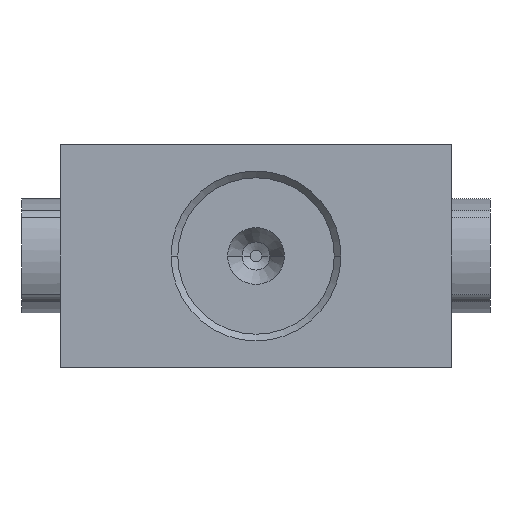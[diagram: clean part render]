
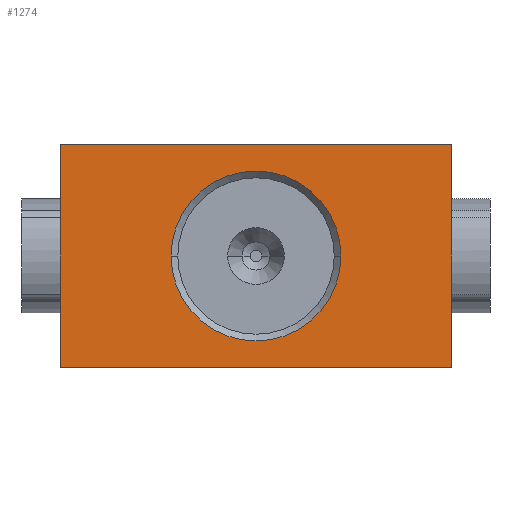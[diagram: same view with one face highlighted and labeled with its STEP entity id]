
A CAD part, front view. The second image highlights one B-rep face of the part: STEP entity #1274.
In plain terms, the highlighted planar face has unit normal (0, -1, 0).
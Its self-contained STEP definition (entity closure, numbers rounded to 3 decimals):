
#81 = EDGE_CURVE ( 'NONE', #2753, #1920, #539, .T. ) ;
#162 = CARTESIAN_POINT ( 'NONE',  ( -33.5, -43.5, -19. ) ) ;
#201 = CARTESIAN_POINT ( 'NONE',  ( -14.52, -43.5, 0. ) ) ;
#211 = CARTESIAN_POINT ( 'NONE',  ( -33.5, -43.5, 19. ) ) ;
#235 = AXIS2_PLACEMENT_3D ( 'NONE', #3115, #615, #2030 ) ;
#242 = EDGE_CURVE ( 'NONE', #1179, #1893, #470, .T. ) ;
#345 = CARTESIAN_POINT ( 'NONE',  ( 0., -43.5, 0. ) ) ;
#439 = ORIENTED_EDGE ( 'NONE', *, *, #2710, .T. ) ;
#470 = CIRCLE ( 'NONE', #235, 14.52 ) ;
#522 = DIRECTION ( 'NONE',  ( 1., 0., 0. ) ) ;
#539 = LINE ( 'NONE', #211, #2063 ) ;
#615 = DIRECTION ( 'NONE',  ( 0., 1., 0. ) ) ;
#622 = VERTEX_POINT ( 'NONE', #1040 ) ;
#682 = DIRECTION ( 'NONE',  ( 1., 0., 0. ) ) ;
#778 = CARTESIAN_POINT ( 'NONE',  ( -33.5, -43.5, 19. ) ) ;
#863 = DIRECTION ( 'NONE',  ( 0., 1., 0. ) ) ;
#1034 = LINE ( 'NONE', #1533, #3629 ) ;
#1040 = CARTESIAN_POINT ( 'NONE',  ( 33.5, -43.5, -19. ) ) ;
#1044 = LINE ( 'NONE', #3517, #3328 ) ;
#1148 = CIRCLE ( 'NONE', #3393, 14.52 ) ;
#1179 = VERTEX_POINT ( 'NONE', #201 ) ;
#1199 = DIRECTION ( 'NONE',  ( 0., 0., 1. ) ) ;
#1211 = VERTEX_POINT ( 'NONE', #162 ) ;
#1274 = ADVANCED_FACE ( 'NONE', ( #2271, #1950 ), #1916, .F. ) ;
#1533 = CARTESIAN_POINT ( 'NONE',  ( 33.5, -43.5, 19. ) ) ;
#1697 = ORIENTED_EDGE ( 'NONE', *, *, #2220, .F. ) ;
#1893 = VERTEX_POINT ( 'NONE', #3370 ) ;
#1916 = PLANE ( 'NONE',  #3212 ) ;
#1920 = VERTEX_POINT ( 'NONE', #2534 ) ;
#1950 = FACE_OUTER_BOUND ( 'NONE', #3289, .T. ) ;
#2030 = DIRECTION ( 'NONE',  ( 0., 0., 1. ) ) ;
#2063 = VECTOR ( 'NONE', #522, 1000. ) ;
#2220 = EDGE_CURVE ( 'NONE', #1920, #622, #1034, .T. ) ;
#2232 = DIRECTION ( 'NONE',  ( 0., 1., 0. ) ) ;
#2271 = FACE_BOUND ( 'NONE', #3306, .T. ) ;
#2296 = ORIENTED_EDGE ( 'NONE', *, *, #81, .F. ) ;
#2302 = ORIENTED_EDGE ( 'NONE', *, *, #242, .T. ) ;
#2439 = VECTOR ( 'NONE', #2711, 1000. ) ;
#2534 = CARTESIAN_POINT ( 'NONE',  ( 33.5, -43.5, 19. ) ) ;
#2670 = CARTESIAN_POINT ( 'NONE',  ( -33.5, -43.5, 19. ) ) ;
#2710 = EDGE_CURVE ( 'NONE', #2753, #1211, #2729, .T. ) ;
#2711 = DIRECTION ( 'NONE',  ( 0., 0., -1. ) ) ;
#2713 = ORIENTED_EDGE ( 'NONE', *, *, #3095, .T. ) ;
#2729 = LINE ( 'NONE', #778, #2439 ) ;
#2753 = VERTEX_POINT ( 'NONE', #2670 ) ;
#2819 = CARTESIAN_POINT ( 'NONE',  ( -33.5, -43.5, 19. ) ) ;
#2914 = DIRECTION ( 'NONE',  ( 0., 0., -1. ) ) ;
#2944 = ORIENTED_EDGE ( 'NONE', *, *, #3267, .T. ) ;
#3095 = EDGE_CURVE ( 'NONE', #1211, #622, #1044, .T. ) ;
#3115 = CARTESIAN_POINT ( 'NONE',  ( 0., -43.5, 0. ) ) ;
#3212 = AXIS2_PLACEMENT_3D ( 'NONE', #2819, #2232, #3368 ) ;
#3267 = EDGE_CURVE ( 'NONE', #1893, #1179, #1148, .T. ) ;
#3289 = EDGE_LOOP ( 'NONE', ( #2713, #1697, #2296, #439 ) ) ;
#3306 = EDGE_LOOP ( 'NONE', ( #2944, #2302 ) ) ;
#3328 = VECTOR ( 'NONE', #682, 1000. ) ;
#3368 = DIRECTION ( 'NONE',  ( 0., 0., 1. ) ) ;
#3370 = CARTESIAN_POINT ( 'NONE',  ( 14.52, -43.5, 0. ) ) ;
#3393 = AXIS2_PLACEMENT_3D ( 'NONE', #345, #863, #1199 ) ;
#3517 = CARTESIAN_POINT ( 'NONE',  ( -33.5, -43.5, -19. ) ) ;
#3629 = VECTOR ( 'NONE', #2914, 1000. ) ;
